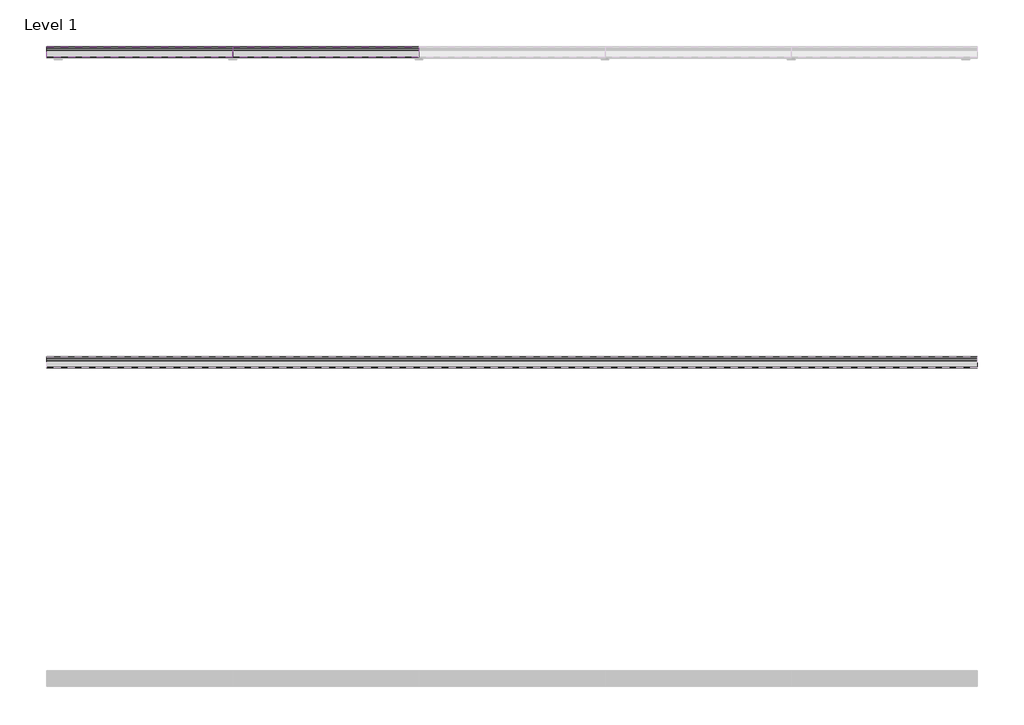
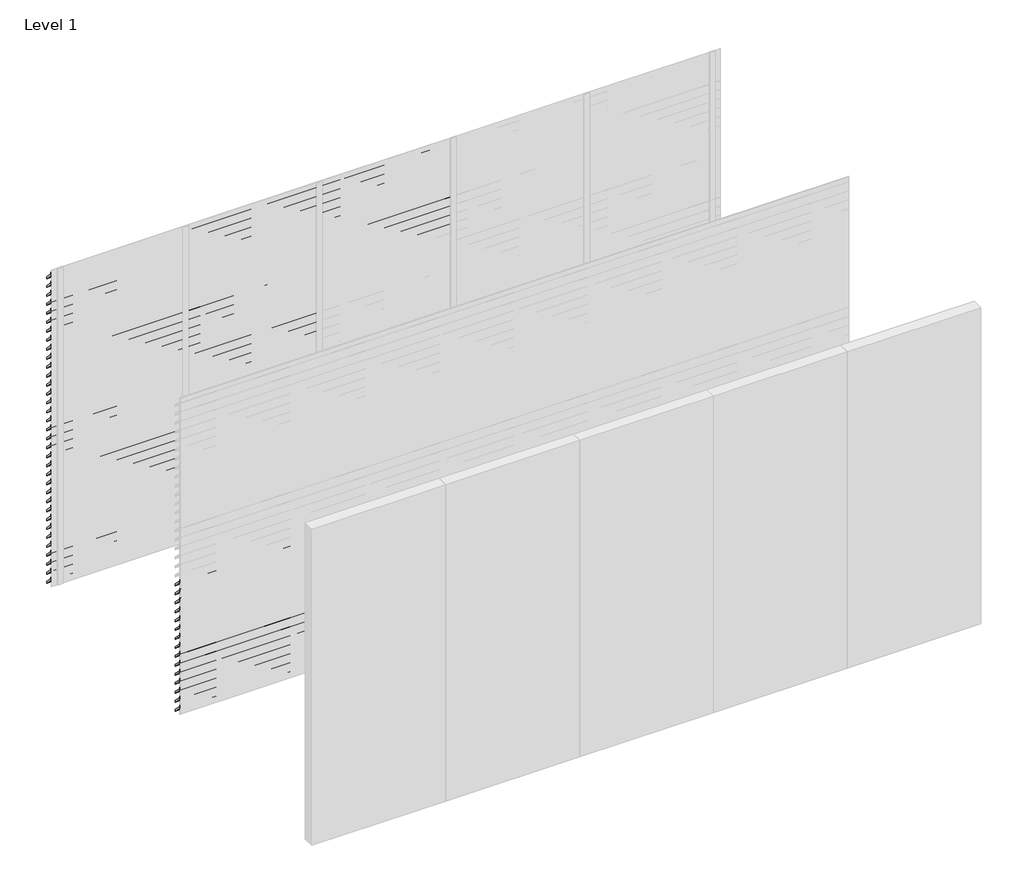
# One storey, part 9 of 10: 95 proxies.
"""IFC4 building model written with IfcOpenShell, lengths in millimetres."""

from ifc_helpers import new_model, si_unit, frame, origin, place, context, project, spatial, polyline, outline, extrude, element, save

model = new_model("IFC4")

# Units and contexts
model_context = context("Model", 3, world=origin())
ifc_project = project(units=[si_unit("LENGTHUNIT", "METRE", prefix="MILLI")], contexts=[model_context])

# Site, building, storey
site = spatial("IfcSite", under=ifc_project)
building = spatial("IfcBuilding", under=site)
storey = spatial("IfcBuildingStorey", under=building, Name="Level 1", Elevation=0.0)

# Proxies
placement = place(None, origin())
element("IfcBuildingElementProxy", 1, Name="Wall Sweeps", at=placement, inside=storey, context=model_context, shape_type="SweptSolid", body=[
    extrude(outline(polyline([(5.0, 2975.0), (5.0, 2962.0), (73.0, 2894.0), (73.0, 2876.0), (3.0, 2946.0), (3.0, 2975.0), (5.0, 2975.0)])), frame((0.0, 0.0, 0.0), z_axis=(1.0, 0.0, 0.0), x_axis=(0.0, 1.0, 0.0)), (0.0, 0.0, 1.0), 1200.0),
])
element("IfcBuildingElementProxy", 2, Name="Wall Sweeps", at=placement, inside=storey, context=model_context, shape_type="SweptSolid", body=[
    extrude(outline(polyline([(5.0, 2890.0), (5.0, 2877.0), (73.0, 2809.0), (73.0, 2791.0), (3.0, 2861.0), (3.0, 2890.0), (5.0, 2890.0)])), frame((0.0, 0.0, 0.0), z_axis=(1.0, 0.0, 0.0), x_axis=(0.0, 1.0, 0.0)), (0.0, 0.0, 1.0), 1200.0),
])
element("IfcBuildingElementProxy", 3, Name="Wall Sweeps", at=placement, inside=storey, context=model_context, shape_type="SweptSolid", body=[
    extrude(outline(polyline([(5.0, 2805.0), (5.0, 2792.0), (73.0, 2724.0), (73.0, 2706.0), (3.0, 2776.0), (3.0, 2805.0), (5.0, 2805.0)])), frame((0.0, 0.0, 0.0), z_axis=(1.0, 0.0, 0.0), x_axis=(0.0, 1.0, 0.0)), (0.0, 0.0, 1.0), 1200.0),
])
element("IfcBuildingElementProxy", 4, Name="Wall Sweeps", at=placement, inside=storey, context=model_context, shape_type="SweptSolid", body=[
    extrude(outline(polyline([(5.0, 2720.0), (5.0, 2707.0), (73.0, 2639.0), (73.0, 2621.0), (3.0, 2691.0), (3.0, 2720.0), (5.0, 2720.0)])), frame((0.0, 0.0, 0.0), z_axis=(1.0, 0.0, 0.0), x_axis=(0.0, 1.0, 0.0)), (0.0, 0.0, 1.0), 1200.0),
])
element("IfcBuildingElementProxy", 5, Name="Wall Sweeps", at=placement, inside=storey, context=model_context, shape_type="SweptSolid", body=[
    extrude(outline(polyline([(5.0, 2635.0), (5.0, 2622.0), (73.0, 2554.0), (73.0, 2536.0), (3.0, 2606.0), (3.0, 2635.0), (5.0, 2635.0)])), frame((0.0, 0.0, 0.0), z_axis=(1.0, 0.0, 0.0), x_axis=(0.0, 1.0, 0.0)), (0.0, 0.0, 1.0), 1200.0),
])
element("IfcBuildingElementProxy", 6, Name="Wall Sweeps", at=placement, inside=storey, context=model_context, shape_type="SweptSolid", body=[
    extrude(outline(polyline([(5.0, 2550.0), (5.0, 2537.0), (73.0, 2469.0), (73.0, 2451.0), (3.0, 2521.0), (3.0, 2550.0), (5.0, 2550.0)])), frame((0.0, 0.0, 0.0), z_axis=(1.0, 0.0, 0.0), x_axis=(0.0, 1.0, 0.0)), (0.0, 0.0, 1.0), 1200.0),
])
element("IfcBuildingElementProxy", 7, Name="Wall Sweeps", at=placement, inside=storey, context=model_context, shape_type="SweptSolid", body=[
    extrude(outline(polyline([(5.0, 2465.0), (5.0, 2452.0), (73.0, 2384.0), (73.0, 2366.0), (3.0, 2436.0), (3.0, 2465.0), (5.0, 2465.0)])), frame((0.0, 0.0, 0.0), z_axis=(1.0, 0.0, 0.0), x_axis=(0.0, 1.0, 0.0)), (0.0, 0.0, 1.0), 1200.0),
])
element("IfcBuildingElementProxy", 8, Name="Wall Sweeps", at=placement, inside=storey, context=model_context, shape_type="SweptSolid", body=[
    extrude(outline(polyline([(5.0, 2380.0), (5.0, 2367.0), (73.0, 2299.0), (73.0, 2281.0), (3.0, 2351.0), (3.0, 2380.0), (5.0, 2380.0)])), frame((0.0, 0.0, 0.0), z_axis=(1.0, 0.0, 0.0), x_axis=(0.0, 1.0, 0.0)), (0.0, 0.0, 1.0), 1200.0),
])
element("IfcBuildingElementProxy", 9, Name="Wall Sweeps", at=placement, inside=storey, context=model_context, shape_type="SweptSolid", body=[
    extrude(outline(polyline([(5.0, 2295.0), (5.0, 2282.0), (73.0, 2214.0), (73.0, 2196.0), (3.0, 2266.0), (3.0, 2295.0), (5.0, 2295.0)])), frame((0.0, 0.0, 0.0), z_axis=(1.0, 0.0, 0.0), x_axis=(0.0, 1.0, 0.0)), (0.0, 0.0, 1.0), 1200.0),
])
element("IfcBuildingElementProxy", 10, Name="Wall Sweeps", at=placement, inside=storey, context=model_context, shape_type="SweptSolid", body=[
    extrude(outline(polyline([(5.0, 2210.0), (5.0, 2197.0), (73.0, 2129.0), (73.0, 2111.0), (3.0, 2181.0), (3.0, 2210.0), (5.0, 2210.0)])), frame((0.0, 0.0, 0.0), z_axis=(1.0, 0.0, 0.0), x_axis=(0.0, 1.0, 0.0)), (0.0, 0.0, 1.0), 1200.0),
])
element("IfcBuildingElementProxy", 11, Name="Wall Sweeps", at=placement, inside=storey, context=model_context, shape_type="SweptSolid", body=[
    extrude(outline(polyline([(5.0, 2125.0), (5.0, 2112.0), (73.0, 2044.0), (73.0, 2026.0), (3.0, 2096.0), (3.0, 2125.0), (5.0, 2125.0)])), frame((0.0, 0.0, 0.0), z_axis=(1.0, 0.0, 0.0), x_axis=(0.0, 1.0, 0.0)), (0.0, 0.0, 1.0), 1200.0),
])
element("IfcBuildingElementProxy", 12, Name="Wall Sweeps", at=placement, inside=storey, context=model_context, shape_type="SweptSolid", body=[
    extrude(outline(polyline([(5.0, 2040.0), (5.0, 2027.0), (73.0, 1959.0), (73.0, 1941.0), (3.0, 2011.0), (3.0, 2040.0), (5.0, 2040.0)])), frame((0.0, 0.0, 0.0), z_axis=(1.0, 0.0, 0.0), x_axis=(0.0, 1.0, 0.0)), (0.0, 0.0, 1.0), 1200.0),
])
element("IfcBuildingElementProxy", 13, Name="Wall Sweeps", at=placement, inside=storey, context=model_context, shape_type="SweptSolid", body=[
    extrude(outline(polyline([(5.0, 1955.0), (5.0, 1942.0), (73.0, 1874.0), (73.0, 1856.0), (3.0, 1926.0), (3.0, 1955.0), (5.0, 1955.0)])), frame((0.0, 0.0, 0.0), z_axis=(1.0, 0.0, 0.0), x_axis=(0.0, 1.0, 0.0)), (0.0, 0.0, 1.0), 1200.0),
])
element("IfcBuildingElementProxy", 14, Name="Wall Sweeps", at=placement, inside=storey, context=model_context, shape_type="SweptSolid", body=[
    extrude(outline(polyline([(5.0, 1870.0), (5.0, 1857.0), (73.0, 1789.0), (73.0, 1771.0), (3.0, 1841.0), (3.0, 1870.0), (5.0, 1870.0)])), frame((0.0, 0.0, 0.0), z_axis=(1.0, 0.0, 0.0), x_axis=(0.0, 1.0, 0.0)), (0.0, 0.0, 1.0), 1200.0),
])
element("IfcBuildingElementProxy", 15, Name="Wall Sweeps", at=placement, inside=storey, context=model_context, shape_type="SweptSolid", body=[
    extrude(outline(polyline([(5.0, 1785.0), (5.0, 1772.0), (73.0, 1704.0), (73.0, 1686.0), (3.0, 1756.0), (3.0, 1785.0), (5.0, 1785.0)])), frame((0.0, 0.0, 0.0), z_axis=(1.0, 0.0, 0.0), x_axis=(0.0, 1.0, 0.0)), (0.0, 0.0, 1.0), 1200.0),
])
element("IfcBuildingElementProxy", 16, Name="Wall Sweeps", at=placement, inside=storey, context=model_context, shape_type="SweptSolid", body=[
    extrude(outline(polyline([(5.0, 1700.0), (5.0, 1687.0), (73.0, 1619.0), (73.0, 1601.0), (3.0, 1671.0), (3.0, 1700.0), (5.0, 1700.0)])), frame((0.0, 0.0, 0.0), z_axis=(1.0, 0.0, 0.0), x_axis=(0.0, 1.0, 0.0)), (0.0, 0.0, 1.0), 1200.0),
])
element("IfcBuildingElementProxy", 17, Name="Wall Sweeps", at=placement, inside=storey, context=model_context, shape_type="SweptSolid", body=[
    extrude(outline(polyline([(5.0, 1615.0), (5.0, 1602.0), (73.0, 1534.0), (73.0, 1516.0), (3.0, 1586.0), (3.0, 1615.0), (5.0, 1615.0)])), frame((0.0, 0.0, 0.0), z_axis=(1.0, 0.0, 0.0), x_axis=(0.0, 1.0, 0.0)), (0.0, 0.0, 1.0), 1200.0),
])
element("IfcBuildingElementProxy", 18, Name="Wall Sweeps", at=placement, inside=storey, context=model_context, shape_type="SweptSolid", body=[
    extrude(outline(polyline([(5.0, 1530.0), (5.0, 1517.0), (73.0, 1449.0), (73.0, 1431.0), (3.0, 1501.0), (3.0, 1530.0), (5.0, 1530.0)])), frame((0.0, 0.0, 0.0), z_axis=(1.0, 0.0, 0.0), x_axis=(0.0, 1.0, 0.0)), (0.0, 0.0, 1.0), 1200.0),
])
element("IfcBuildingElementProxy", 19, Name="Wall Sweeps", at=placement, inside=storey, context=model_context, shape_type="SweptSolid", body=[
    extrude(outline(polyline([(5.0, 1445.0), (5.0, 1432.0), (73.0, 1364.0), (73.0, 1346.0), (3.0, 1416.0), (3.0, 1445.0), (5.0, 1445.0)])), frame((0.0, 0.0, 0.0), z_axis=(1.0, 0.0, 0.0), x_axis=(0.0, 1.0, 0.0)), (0.0, 0.0, 1.0), 1200.0),
])
element("IfcBuildingElementProxy", 20, Name="Wall Sweeps", at=placement, inside=storey, context=model_context, shape_type="SweptSolid", body=[
    extrude(outline(polyline([(5.0, 1360.0), (5.0, 1347.0), (73.0, 1279.0), (73.0, 1261.0), (3.0, 1331.0), (3.0, 1360.0), (5.0, 1360.0)])), frame((0.0, 0.0, 0.0), z_axis=(1.0, 0.0, 0.0), x_axis=(0.0, 1.0, 0.0)), (0.0, 0.0, 1.0), 1200.0),
])
element("IfcBuildingElementProxy", 21, Name="Wall Sweeps", at=placement, inside=storey, context=model_context, shape_type="SweptSolid", body=[
    extrude(outline(polyline([(5.0, 1275.0), (5.0, 1262.0), (73.0, 1194.0), (73.0, 1176.0), (3.0, 1246.0), (3.0, 1275.0), (5.0, 1275.0)])), frame((0.0, 0.0, 0.0), z_axis=(1.0, 0.0, 0.0), x_axis=(0.0, 1.0, 0.0)), (0.0, 0.0, 1.0), 1200.0),
])
element("IfcBuildingElementProxy", 22, Name="Wall Sweeps", at=placement, inside=storey, context=model_context, shape_type="SweptSolid", body=[
    extrude(outline(polyline([(5.0, 1190.0), (5.0, 1177.0), (73.0, 1109.0), (73.0, 1091.0), (3.0, 1161.0), (3.0, 1190.0), (5.0, 1190.0)])), frame((0.0, 0.0, 0.0), z_axis=(1.0, 0.0, 0.0), x_axis=(0.0, 1.0, 0.0)), (0.0, 0.0, 1.0), 1200.0),
])
element("IfcBuildingElementProxy", 23, Name="Wall Sweeps", at=placement, inside=storey, context=model_context, shape_type="SweptSolid", body=[
    extrude(outline(polyline([(5.0, 1105.0), (5.0, 1092.0), (73.0, 1024.0), (73.0, 1006.0), (3.0, 1076.0), (3.0, 1105.0), (5.0, 1105.0)])), frame((0.0, 0.0, 0.0), z_axis=(1.0, 0.0, 0.0), x_axis=(0.0, 1.0, 0.0)), (0.0, 0.0, 1.0), 1200.0),
])
element("IfcBuildingElementProxy", 24, Name="Wall Sweeps", at=placement, inside=storey, context=model_context, shape_type="SweptSolid", body=[
    extrude(outline(polyline([(5.0, 1020.0), (5.0, 1007.0), (73.0, 939.0), (73.0, 921.0), (3.0, 991.0), (3.0, 1020.0), (5.0, 1020.0)])), frame((0.0, 0.0, 0.0), z_axis=(1.0, 0.0, 0.0), x_axis=(0.0, 1.0, 0.0)), (0.0, 0.0, 1.0), 1200.0),
])
element("IfcBuildingElementProxy", 25, Name="Wall Sweeps", at=placement, inside=storey, context=model_context, shape_type="SweptSolid", body=[
    extrude(outline(polyline([(5.0, 935.0), (5.0, 922.0), (73.0, 854.0), (73.0, 836.0), (3.0, 906.0), (3.0, 935.0), (5.0, 935.0)])), frame((0.0, 0.0, 0.0), z_axis=(1.0, 0.0, 0.0), x_axis=(0.0, 1.0, 0.0)), (0.0, 0.0, 1.0), 1200.0),
])
element("IfcBuildingElementProxy", 26, Name="Wall Sweeps", at=placement, inside=storey, context=model_context, shape_type="SweptSolid", body=[
    extrude(outline(polyline([(5.0, 850.0), (5.0, 837.0), (73.0, 769.0), (73.0, 751.0), (3.0, 821.0), (3.0, 850.0), (5.0, 850.0)])), frame((0.0, 0.0, 0.0), z_axis=(1.0, 0.0, 0.0), x_axis=(0.0, 1.0, 0.0)), (0.0, 0.0, 1.0), 1200.0),
])
element("IfcBuildingElementProxy", 27, Name="Wall Sweeps", at=placement, inside=storey, context=model_context, shape_type="SweptSolid", body=[
    extrude(outline(polyline([(5.0, 765.0), (5.0, 752.0), (73.0, 684.0), (73.0, 666.0), (3.0, 736.0), (3.0, 765.0), (5.0, 765.0)])), frame((0.0, 0.0, 0.0), z_axis=(1.0, 0.0, 0.0), x_axis=(0.0, 1.0, 0.0)), (0.0, 0.0, 1.0), 1200.0),
])
element("IfcBuildingElementProxy", 28, Name="Wall Sweeps", at=placement, inside=storey, context=model_context, shape_type="SweptSolid", body=[
    extrude(outline(polyline([(5.0, 680.0), (5.0, 667.0), (73.0, 599.0), (73.0, 581.0), (3.0, 651.0), (3.0, 680.0), (5.0, 680.0)])), frame((0.0, 0.0, 0.0), z_axis=(1.0, 0.0, 0.0), x_axis=(0.0, 1.0, 0.0)), (0.0, 0.0, 1.0), 1200.0),
])
element("IfcBuildingElementProxy", 29, Name="Wall Sweeps", at=placement, inside=storey, context=model_context, shape_type="SweptSolid", body=[
    extrude(outline(polyline([(5.0, 595.0), (5.0, 582.0), (73.0, 514.0), (73.0, 496.0), (3.0, 566.0), (3.0, 595.0), (5.0, 595.0)])), frame((0.0, 0.0, 0.0), z_axis=(1.0, 0.0, 0.0), x_axis=(0.0, 1.0, 0.0)), (0.0, 0.0, 1.0), 1200.0),
])
element("IfcBuildingElementProxy", 30, Name="Wall Sweeps", at=placement, inside=storey, context=model_context, shape_type="SweptSolid", body=[
    extrude(outline(polyline([(5.0, 510.0), (5.0, 497.0), (73.0, 429.0), (73.0, 411.0), (3.0, 481.0), (3.0, 510.0), (5.0, 510.0)])), frame((0.0, 0.0, 0.0), z_axis=(1.0, 0.0, 0.0), x_axis=(0.0, 1.0, 0.0)), (0.0, 0.0, 1.0), 1200.0),
])
element("IfcBuildingElementProxy", 31, Name="Wall Sweeps", at=placement, inside=storey, context=model_context, shape_type="SweptSolid", body=[
    extrude(outline(polyline([(5.0, 425.0), (5.0, 412.0), (73.0, 344.0), (73.0, 326.0), (3.0, 396.0), (3.0, 425.0), (5.0, 425.0)])), frame((0.0, 0.0, 0.0), z_axis=(1.0, 0.0, 0.0), x_axis=(0.0, 1.0, 0.0)), (0.0, 0.0, 1.0), 1200.0),
])
element("IfcBuildingElementProxy", 32, Name="Wall Sweeps", at=placement, inside=storey, context=model_context, shape_type="SweptSolid", body=[
    extrude(outline(polyline([(5.0, 340.0), (5.0, 327.0), (73.0, 259.0), (73.0, 241.0), (3.0, 311.0), (3.0, 340.0), (5.0, 340.0)])), frame((0.0, 0.0, 0.0), z_axis=(1.0, 0.0, 0.0), x_axis=(0.0, 1.0, 0.0)), (0.0, 0.0, 1.0), 1200.0),
])
element("IfcBuildingElementProxy", 33, Name="Wall Sweeps", at=placement, inside=storey, context=model_context, shape_type="SweptSolid", body=[
    extrude(outline(polyline([(5.0, 255.0), (5.0, 242.0), (73.0, 174.0), (73.0, 156.0), (3.0, 226.0), (3.0, 255.0), (5.0, 255.0)])), frame((0.0, 0.0, 0.0), z_axis=(1.0, 0.0, 0.0), x_axis=(0.0, 1.0, 0.0)), (0.0, 0.0, 1.0), 1200.0),
])
element("IfcBuildingElementProxy", 34, Name="Wall Sweeps", at=placement, inside=storey, context=model_context, shape_type="SweptSolid", body=[
    extrude(outline(polyline([(5.0, 170.0), (5.0, 157.0), (73.0, 89.0), (73.0, 71.0), (3.0, 141.0), (3.0, 170.0), (5.0, 170.0)])), frame((0.0, 0.0, 0.0), z_axis=(1.0, 0.0, 0.0), x_axis=(0.0, 1.0, 0.0)), (0.0, 0.0, 1.0), 1200.0),
])
element("IfcBuildingElementProxy", 35, Name="Wall Sweeps", at=placement, inside=storey, context=model_context, shape_type="SweptSolid", body=[
    extrude(outline(polyline([(5.0, 85.0), (5.0, 72.0), (73.0, 4.0), (73.0, -14.0), (3.0, 56.0), (3.0, 85.0), (5.0, 85.0)])), frame((0.0, 0.0, 0.0), z_axis=(1.0, 0.0, 0.0), x_axis=(0.0, 1.0, 0.0)), (0.0, 0.0, 1.0), 1200.0),
])
element("IfcBuildingElementProxy", 36, Name="Wall Sweeps", at=placement, inside=storey, context=model_context, shape_type="SweptSolid", body=[
    extrude(outline(polyline([(5.0, 2975.0), (5.0, 2962.0), (73.0, 2894.0), (73.0, 2876.0), (3.0, 2946.0), (3.0, 2975.0), (5.0, 2975.0)])), frame((1200.0, 0.0, 0.0), z_axis=(1.0, 0.0, 0.0), x_axis=(0.0, 1.0, 0.0)), (0.0, 0.0, 1.0), 1200.0),
])
element("IfcBuildingElementProxy", 37, Name="Wall Sweeps", at=placement, inside=storey, context=model_context, shape_type="SweptSolid", body=[
    extrude(outline(polyline([(5.0, 2890.0), (5.0, 2877.0), (73.0, 2809.0), (73.0, 2791.0), (3.0, 2861.0), (3.0, 2890.0), (5.0, 2890.0)])), frame((1200.0, 0.0, 0.0), z_axis=(1.0, 0.0, 0.0), x_axis=(0.0, 1.0, 0.0)), (0.0, 0.0, 1.0), 1200.0),
])
element("IfcBuildingElementProxy", 38, Name="Wall Sweeps", at=placement, inside=storey, context=model_context, shape_type="SweptSolid", body=[
    extrude(outline(polyline([(5.0, 2805.0), (5.0, 2792.0), (73.0, 2724.0), (73.0, 2706.0), (3.0, 2776.0), (3.0, 2805.0), (5.0, 2805.0)])), frame((1200.0, 0.0, 0.0), z_axis=(1.0, 0.0, 0.0), x_axis=(0.0, 1.0, 0.0)), (0.0, 0.0, 1.0), 1200.0),
])
element("IfcBuildingElementProxy", 39, Name="Wall Sweeps", at=placement, inside=storey, context=model_context, shape_type="SweptSolid", body=[
    extrude(outline(polyline([(5.0, 2720.0), (5.0, 2707.0), (73.0, 2639.0), (73.0, 2621.0), (3.0, 2691.0), (3.0, 2720.0), (5.0, 2720.0)])), frame((1200.0, 0.0, 0.0), z_axis=(1.0, 0.0, 0.0), x_axis=(0.0, 1.0, 0.0)), (0.0, 0.0, 1.0), 1200.0),
])
element("IfcBuildingElementProxy", 40, Name="Wall Sweeps", at=placement, inside=storey, context=model_context, shape_type="SweptSolid", body=[
    extrude(outline(polyline([(5.0, 2635.0), (5.0, 2622.0), (73.0, 2554.0), (73.0, 2536.0), (3.0, 2606.0), (3.0, 2635.0), (5.0, 2635.0)])), frame((1200.0, 0.0, 0.0), z_axis=(1.0, 0.0, 0.0), x_axis=(0.0, 1.0, 0.0)), (0.0, 0.0, 1.0), 1200.0),
])
element("IfcBuildingElementProxy", 41, Name="Wall Sweeps", at=placement, inside=storey, context=model_context, shape_type="SweptSolid", body=[
    extrude(outline(polyline([(5.0, 2550.0), (5.0, 2537.0), (73.0, 2469.0), (73.0, 2451.0), (3.0, 2521.0), (3.0, 2550.0), (5.0, 2550.0)])), frame((1200.0, 0.0, 0.0), z_axis=(1.0, 0.0, 0.0), x_axis=(0.0, 1.0, 0.0)), (0.0, 0.0, 1.0), 1200.0),
])
element("IfcBuildingElementProxy", 42, Name="Wall Sweeps", at=placement, inside=storey, context=model_context, shape_type="SweptSolid", body=[
    extrude(outline(polyline([(5.0, 2465.0), (5.0, 2452.0), (73.0, 2384.0), (73.0, 2366.0), (3.0, 2436.0), (3.0, 2465.0), (5.0, 2465.0)])), frame((1200.0, 0.0, 0.0), z_axis=(1.0, 0.0, 0.0), x_axis=(0.0, 1.0, 0.0)), (0.0, 0.0, 1.0), 1200.0),
])
element("IfcBuildingElementProxy", 43, Name="Wall Sweeps", at=placement, inside=storey, context=model_context, shape_type="SweptSolid", body=[
    extrude(outline(polyline([(5.0, 2380.0), (5.0, 2367.0), (73.0, 2299.0), (73.0, 2281.0), (3.0, 2351.0), (3.0, 2380.0), (5.0, 2380.0)])), frame((1200.0, 0.0, 0.0), z_axis=(1.0, 0.0, 0.0), x_axis=(0.0, 1.0, 0.0)), (0.0, 0.0, 1.0), 1200.0),
])
element("IfcBuildingElementProxy", 44, Name="Wall Sweeps", at=placement, inside=storey, context=model_context, shape_type="SweptSolid", body=[
    extrude(outline(polyline([(5.0, 2295.0), (5.0, 2282.0), (73.0, 2214.0), (73.0, 2196.0), (3.0, 2266.0), (3.0, 2295.0), (5.0, 2295.0)])), frame((1200.0, 0.0, 0.0), z_axis=(1.0, 0.0, 0.0), x_axis=(0.0, 1.0, 0.0)), (0.0, 0.0, 1.0), 1200.0),
])
element("IfcBuildingElementProxy", 45, Name="Wall Sweeps", at=placement, inside=storey, context=model_context, shape_type="SweptSolid", body=[
    extrude(outline(polyline([(5.0, 2210.0), (5.0, 2197.0), (73.0, 2129.0), (73.0, 2111.0), (3.0, 2181.0), (3.0, 2210.0), (5.0, 2210.0)])), frame((1200.0, 0.0, 0.0), z_axis=(1.0, 0.0, 0.0), x_axis=(0.0, 1.0, 0.0)), (0.0, 0.0, 1.0), 1200.0),
])
element("IfcBuildingElementProxy", 46, Name="Wall Sweeps", at=placement, inside=storey, context=model_context, shape_type="SweptSolid", body=[
    extrude(outline(polyline([(5.0, 2125.0), (5.0, 2112.0), (73.0, 2044.0), (73.0, 2026.0), (3.0, 2096.0), (3.0, 2125.0), (5.0, 2125.0)])), frame((1200.0, 0.0, 0.0), z_axis=(1.0, 0.0, 0.0), x_axis=(0.0, 1.0, 0.0)), (0.0, 0.0, 1.0), 1200.0),
])
element("IfcBuildingElementProxy", 47, Name="Wall Sweeps", at=placement, inside=storey, context=model_context, shape_type="SweptSolid", body=[
    extrude(outline(polyline([(5.0, 2040.0), (5.0, 2027.0), (73.0, 1959.0), (73.0, 1941.0), (3.0, 2011.0), (3.0, 2040.0), (5.0, 2040.0)])), frame((1200.0, 0.0, 0.0), z_axis=(1.0, 0.0, 0.0), x_axis=(0.0, 1.0, 0.0)), (0.0, 0.0, 1.0), 1200.0),
])
element("IfcBuildingElementProxy", 48, Name="Wall Sweeps", at=placement, inside=storey, context=model_context, shape_type="SweptSolid", body=[
    extrude(outline(polyline([(5.0, 1955.0), (5.0, 1942.0), (73.0, 1874.0), (73.0, 1856.0), (3.0, 1926.0), (3.0, 1955.0), (5.0, 1955.0)])), frame((1200.0, 0.0, 0.0), z_axis=(1.0, 0.0, 0.0), x_axis=(0.0, 1.0, 0.0)), (0.0, 0.0, 1.0), 1200.0),
])
element("IfcBuildingElementProxy", 49, Name="Wall Sweeps", at=placement, inside=storey, context=model_context, shape_type="SweptSolid", body=[
    extrude(outline(polyline([(5.0, 1870.0), (5.0, 1857.0), (73.0, 1789.0), (73.0, 1771.0), (3.0, 1841.0), (3.0, 1870.0), (5.0, 1870.0)])), frame((1200.0, 0.0, 0.0), z_axis=(1.0, 0.0, 0.0), x_axis=(0.0, 1.0, 0.0)), (0.0, 0.0, 1.0), 1200.0),
])
element("IfcBuildingElementProxy", 50, Name="Wall Sweeps", at=placement, inside=storey, context=model_context, shape_type="SweptSolid", body=[
    extrude(outline(polyline([(5.0, 1785.0), (5.0, 1772.0), (73.0, 1704.0), (73.0, 1686.0), (3.0, 1756.0), (3.0, 1785.0), (5.0, 1785.0)])), frame((1200.0, 0.0, 0.0), z_axis=(1.0, 0.0, 0.0), x_axis=(0.0, 1.0, 0.0)), (0.0, 0.0, 1.0), 1200.0),
])
element("IfcBuildingElementProxy", 51, Name="Wall Sweeps", at=placement, inside=storey, context=model_context, shape_type="SweptSolid", body=[
    extrude(outline(polyline([(5.0, 1700.0), (5.0, 1687.0), (73.0, 1619.0), (73.0, 1601.0), (3.0, 1671.0), (3.0, 1700.0), (5.0, 1700.0)])), frame((1200.0, 0.0, 0.0), z_axis=(1.0, 0.0, 0.0), x_axis=(0.0, 1.0, 0.0)), (0.0, 0.0, 1.0), 1200.0),
])
element("IfcBuildingElementProxy", 52, Name="Wall Sweeps", at=placement, inside=storey, context=model_context, shape_type="SweptSolid", body=[
    extrude(outline(polyline([(5.0, 1615.0), (5.0, 1602.0), (73.0, 1534.0), (73.0, 1516.0), (3.0, 1586.0), (3.0, 1615.0), (5.0, 1615.0)])), frame((1200.0, 0.0, 0.0), z_axis=(1.0, 0.0, 0.0), x_axis=(0.0, 1.0, 0.0)), (0.0, 0.0, 1.0), 1200.0),
])
element("IfcBuildingElementProxy", 53, Name="Wall Sweeps", at=placement, inside=storey, context=model_context, shape_type="SweptSolid", body=[
    extrude(outline(polyline([(5.0, 1530.0), (5.0, 1517.0), (73.0, 1449.0), (73.0, 1431.0), (3.0, 1501.0), (3.0, 1530.0), (5.0, 1530.0)])), frame((1200.0, 0.0, 0.0), z_axis=(1.0, 0.0, 0.0), x_axis=(0.0, 1.0, 0.0)), (0.0, 0.0, 1.0), 1200.0),
])
element("IfcBuildingElementProxy", 54, Name="Wall Sweeps", at=placement, inside=storey, context=model_context, shape_type="SweptSolid", body=[
    extrude(outline(polyline([(5.0, 1445.0), (5.0, 1432.0), (73.0, 1364.0), (73.0, 1346.0), (3.0, 1416.0), (3.0, 1445.0), (5.0, 1445.0)])), frame((1200.0, 0.0, 0.0), z_axis=(1.0, 0.0, 0.0), x_axis=(0.0, 1.0, 0.0)), (0.0, 0.0, 1.0), 1200.0),
])
element("IfcBuildingElementProxy", 55, Name="Wall Sweeps", at=placement, inside=storey, context=model_context, shape_type="SweptSolid", body=[
    extrude(outline(polyline([(5.0, 1360.0), (5.0, 1347.0), (73.0, 1279.0), (73.0, 1261.0), (3.0, 1331.0), (3.0, 1360.0), (5.0, 1360.0)])), frame((1200.0, 0.0, 0.0), z_axis=(1.0, 0.0, 0.0), x_axis=(0.0, 1.0, 0.0)), (0.0, 0.0, 1.0), 1200.0),
])
element("IfcBuildingElementProxy", 56, Name="Wall Sweeps", at=placement, inside=storey, context=model_context, shape_type="SweptSolid", body=[
    extrude(outline(polyline([(5.0, 1275.0), (5.0, 1262.0), (73.0, 1194.0), (73.0, 1176.0), (3.0, 1246.0), (3.0, 1275.0), (5.0, 1275.0)])), frame((1200.0, 0.0, 0.0), z_axis=(1.0, 0.0, 0.0), x_axis=(0.0, 1.0, 0.0)), (0.0, 0.0, 1.0), 1200.0),
])
element("IfcBuildingElementProxy", 57, Name="Wall Sweeps", at=placement, inside=storey, context=model_context, shape_type="SweptSolid", body=[
    extrude(outline(polyline([(5.0, 1190.0), (5.0, 1177.0), (73.0, 1109.0), (73.0, 1091.0), (3.0, 1161.0), (3.0, 1190.0), (5.0, 1190.0)])), frame((1200.0, 0.0, 0.0), z_axis=(1.0, 0.0, 0.0), x_axis=(0.0, 1.0, 0.0)), (0.0, 0.0, 1.0), 1200.0),
])
element("IfcBuildingElementProxy", 58, Name="Wall Sweeps", at=placement, inside=storey, context=model_context, shape_type="SweptSolid", body=[
    extrude(outline(polyline([(5.0, 1105.0), (5.0, 1092.0), (73.0, 1024.0), (73.0, 1006.0), (3.0, 1076.0), (3.0, 1105.0), (5.0, 1105.0)])), frame((1200.0, 0.0, 0.0), z_axis=(1.0, 0.0, 0.0), x_axis=(0.0, 1.0, 0.0)), (0.0, 0.0, 1.0), 1200.0),
])
element("IfcBuildingElementProxy", 59, Name="Wall Sweeps", at=placement, inside=storey, context=model_context, shape_type="SweptSolid", body=[
    extrude(outline(polyline([(5.0, 1020.0), (5.0, 1007.0), (73.0, 939.0), (73.0, 921.0), (3.0, 991.0), (3.0, 1020.0), (5.0, 1020.0)])), frame((1200.0, 0.0, 0.0), z_axis=(1.0, 0.0, 0.0), x_axis=(0.0, 1.0, 0.0)), (0.0, 0.0, 1.0), 1200.0),
])
element("IfcBuildingElementProxy", 60, Name="Wall Sweeps", at=placement, inside=storey, context=model_context, shape_type="SweptSolid", body=[
    extrude(outline(polyline([(5.0, 935.0), (5.0, 922.0), (73.0, 854.0), (73.0, 836.0), (3.0, 906.0), (3.0, 935.0), (5.0, 935.0)])), frame((1200.0, 0.0, 0.0), z_axis=(1.0, 0.0, 0.0), x_axis=(0.0, 1.0, 0.0)), (0.0, 0.0, 1.0), 1200.0),
])
element("IfcBuildingElementProxy", 61, Name="Wall Sweeps", at=placement, inside=storey, context=model_context, shape_type="SweptSolid", body=[
    extrude(outline(polyline([(5.0, 850.0), (5.0, 837.0), (73.0, 769.0), (73.0, 751.0), (3.0, 821.0), (3.0, 850.0), (5.0, 850.0)])), frame((1200.0, 0.0, 0.0), z_axis=(1.0, 0.0, 0.0), x_axis=(0.0, 1.0, 0.0)), (0.0, 0.0, 1.0), 1200.0),
])
element("IfcBuildingElementProxy", 62, Name="Wall Sweeps", at=placement, inside=storey, context=model_context, shape_type="SweptSolid", body=[
    extrude(outline(polyline([(5.0, 765.0), (5.0, 752.0), (73.0, 684.0), (73.0, 666.0), (3.0, 736.0), (3.0, 765.0), (5.0, 765.0)])), frame((1200.0, 0.0, 0.0), z_axis=(1.0, 0.0, 0.0), x_axis=(0.0, 1.0, 0.0)), (0.0, 0.0, 1.0), 1200.0),
])
element("IfcBuildingElementProxy", 63, Name="Wall Sweeps", at=placement, inside=storey, context=model_context, shape_type="SweptSolid", body=[
    extrude(outline(polyline([(5.0, 680.0), (5.0, 667.0), (73.0, 599.0), (73.0, 581.0), (3.0, 651.0), (3.0, 680.0), (5.0, 680.0)])), frame((1200.0, 0.0, 0.0), z_axis=(1.0, 0.0, 0.0), x_axis=(0.0, 1.0, 0.0)), (0.0, 0.0, 1.0), 1200.0),
])
element("IfcBuildingElementProxy", 64, Name="Wall Sweeps", at=placement, inside=storey, context=model_context, shape_type="SweptSolid", body=[
    extrude(outline(polyline([(5.0, 595.0), (5.0, 582.0), (73.0, 514.0), (73.0, 496.0), (3.0, 566.0), (3.0, 595.0), (5.0, 595.0)])), frame((1200.0, 0.0, 0.0), z_axis=(1.0, 0.0, 0.0), x_axis=(0.0, 1.0, 0.0)), (0.0, 0.0, 1.0), 1200.0),
])
element("IfcBuildingElementProxy", 65, Name="Wall Sweeps", at=placement, inside=storey, context=model_context, shape_type="SweptSolid", body=[
    extrude(outline(polyline([(5.0, 510.0), (5.0, 497.0), (73.0, 429.0), (73.0, 411.0), (3.0, 481.0), (3.0, 510.0), (5.0, 510.0)])), frame((1200.0, 0.0, 0.0), z_axis=(1.0, 0.0, 0.0), x_axis=(0.0, 1.0, 0.0)), (0.0, 0.0, 1.0), 1200.0),
])
element("IfcBuildingElementProxy", 66, Name="Wall Sweeps", at=placement, inside=storey, context=model_context, shape_type="SweptSolid", body=[
    extrude(outline(polyline([(5.0, 425.0), (5.0, 412.0), (73.0, 344.0), (73.0, 326.0), (3.0, 396.0), (3.0, 425.0), (5.0, 425.0)])), frame((1200.0, 0.0, 0.0), z_axis=(1.0, 0.0, 0.0), x_axis=(0.0, 1.0, 0.0)), (0.0, 0.0, 1.0), 1200.0),
])
element("IfcBuildingElementProxy", 67, Name="Wall Sweeps", at=placement, inside=storey, context=model_context, shape_type="SweptSolid", body=[
    extrude(outline(polyline([(5.0, 340.0), (5.0, 327.0), (73.0, 259.0), (73.0, 241.0), (3.0, 311.0), (3.0, 340.0), (5.0, 340.0)])), frame((1200.0, 0.0, 0.0), z_axis=(1.0, 0.0, 0.0), x_axis=(0.0, 1.0, 0.0)), (0.0, 0.0, 1.0), 1200.0),
])
element("IfcBuildingElementProxy", 68, Name="Wall Sweeps", at=placement, inside=storey, context=model_context, shape_type="SweptSolid", body=[
    extrude(outline(polyline([(5.0, 255.0), (5.0, 242.0), (73.0, 174.0), (73.0, 156.0), (3.0, 226.0), (3.0, 255.0), (5.0, 255.0)])), frame((1200.0, 0.0, 0.0), z_axis=(1.0, 0.0, 0.0), x_axis=(0.0, 1.0, 0.0)), (0.0, 0.0, 1.0), 1200.0),
])
element("IfcBuildingElementProxy", 69, Name="Wall Sweeps", at=placement, inside=storey, context=model_context, shape_type="SweptSolid", body=[
    extrude(outline(polyline([(5.0, 170.0), (5.0, 157.0), (73.0, 89.0), (73.0, 71.0), (3.0, 141.0), (3.0, 170.0), (5.0, 170.0)])), frame((1200.0, 0.0, 0.0), z_axis=(1.0, 0.0, 0.0), x_axis=(0.0, 1.0, 0.0)), (0.0, 0.0, 1.0), 1200.0),
])
element("IfcBuildingElementProxy", 70, Name="Wall Sweeps", at=placement, inside=storey, context=model_context, shape_type="SweptSolid", body=[
    extrude(outline(polyline([(5.0, 85.0), (5.0, 72.0), (73.0, 4.0), (73.0, -14.0), (3.0, 56.0), (3.0, 85.0), (5.0, 85.0)])), frame((1200.0, 0.0, 0.0), z_axis=(1.0, 0.0, 0.0), x_axis=(0.0, 1.0, 0.0)), (0.0, 0.0, 1.0), 1200.0),
])
element("IfcBuildingElementProxy", 71, Name="Wall Sweeps", at=placement, inside=storey, context=model_context, shape_type="SweptSolid", body=[
    extrude(outline(polyline([(5.0, 2975.0), (5.0, 2962.0), (73.0, 2894.0), (73.0, 2876.0), (3.0, 2946.0), (3.0, 2975.0), (5.0, 2975.0)])), frame((2400.0, 0.0, 0.0), z_axis=(1.0, 0.0, 0.0), x_axis=(0.0, 1.0, 0.0)), (0.0, 0.0, 1.0), 1200.0),
])
element("IfcBuildingElementProxy", 72, Name="Wall Sweeps", at=placement, inside=storey, context=model_context, shape_type="SweptSolid", body=[
    extrude(outline(polyline([(5.0, 2890.0), (5.0, 2877.0), (73.0, 2809.0), (73.0, 2791.0), (3.0, 2861.0), (3.0, 2890.0), (5.0, 2890.0)])), frame((2400.0, 0.0, 0.0), z_axis=(1.0, 0.0, 0.0), x_axis=(0.0, 1.0, 0.0)), (0.0, 0.0, 1.0), 1200.0),
])
element("IfcBuildingElementProxy", 73, Name="Wall Sweeps", at=placement, inside=storey, context=model_context, shape_type="SweptSolid", body=[
    extrude(outline(polyline([(5.0, 2805.0), (5.0, 2792.0), (73.0, 2724.0), (73.0, 2706.0), (3.0, 2776.0), (3.0, 2805.0), (5.0, 2805.0)])), frame((2400.0, 0.0, 0.0), z_axis=(1.0, 0.0, 0.0), x_axis=(0.0, 1.0, 0.0)), (0.0, 0.0, 1.0), 1200.0),
])
element("IfcBuildingElementProxy", 74, Name="Wall Sweeps", at=placement, inside=storey, context=model_context, shape_type="SweptSolid", body=[
    extrude(outline(polyline([(5.0, 2720.0), (5.0, 2707.0), (73.0, 2639.0), (73.0, 2621.0), (3.0, 2691.0), (3.0, 2720.0), (5.0, 2720.0)])), frame((2400.0, 0.0, 0.0), z_axis=(1.0, 0.0, 0.0), x_axis=(0.0, 1.0, 0.0)), (0.0, 0.0, 1.0), 1200.0),
])
element("IfcBuildingElementProxy", 75, Name="Wall Sweeps", at=placement, inside=storey, context=model_context, shape_type="SweptSolid", body=[
    extrude(outline(polyline([(5.0, 2635.0), (5.0, 2622.0), (73.0, 2554.0), (73.0, 2536.0), (3.0, 2606.0), (3.0, 2635.0), (5.0, 2635.0)])), frame((2400.0, 0.0, 0.0), z_axis=(1.0, 0.0, 0.0), x_axis=(0.0, 1.0, 0.0)), (0.0, 0.0, 1.0), 1200.0),
])
element("IfcBuildingElementProxy", 76, Name="Wall Sweeps", at=placement, inside=storey, context=model_context, shape_type="SweptSolid", body=[
    extrude(outline(polyline([(5.0, 2550.0), (5.0, 2537.0), (73.0, 2469.0), (73.0, 2451.0), (3.0, 2521.0), (3.0, 2550.0), (5.0, 2550.0)])), frame((2400.0, 0.0, 0.0), z_axis=(1.0, 0.0, 0.0), x_axis=(0.0, 1.0, 0.0)), (0.0, 0.0, 1.0), 1200.0),
])
element("IfcBuildingElementProxy", 77, Name="Wall Sweeps", at=placement, inside=storey, context=model_context, shape_type="SweptSolid", body=[
    extrude(outline(polyline([(5.0, 2465.0), (5.0, 2452.0), (73.0, 2384.0), (73.0, 2366.0), (3.0, 2436.0), (3.0, 2465.0), (5.0, 2465.0)])), frame((2400.0, 0.0, 0.0), z_axis=(1.0, 0.0, 0.0), x_axis=(0.0, 1.0, 0.0)), (0.0, 0.0, 1.0), 1200.0),
])
element("IfcBuildingElementProxy", 78, Name="Wall Sweeps", at=placement, inside=storey, context=model_context, shape_type="SweptSolid", body=[
    extrude(outline(polyline([(5.0, 2380.0), (5.0, 2367.0), (73.0, 2299.0), (73.0, 2281.0), (3.0, 2351.0), (3.0, 2380.0), (5.0, 2380.0)])), frame((2400.0, 0.0, 0.0), z_axis=(1.0, 0.0, 0.0), x_axis=(0.0, 1.0, 0.0)), (0.0, 0.0, 1.0), 1200.0),
])
element("IfcBuildingElementProxy", 79, Name="Wall Sweeps", at=placement, inside=storey, context=model_context, shape_type="SweptSolid", body=[
    extrude(outline(polyline([(5.0, 2295.0), (5.0, 2282.0), (73.0, 2214.0), (73.0, 2196.0), (3.0, 2266.0), (3.0, 2295.0), (5.0, 2295.0)])), frame((2400.0, 0.0, 0.0), z_axis=(1.0, 0.0, 0.0), x_axis=(0.0, 1.0, 0.0)), (0.0, 0.0, 1.0), 1200.0),
])
element("IfcBuildingElementProxy", 80, Name="Wall Sweeps", at=placement, inside=storey, context=model_context, shape_type="SweptSolid", body=[
    extrude(outline(polyline([(5.0, 2210.0), (5.0, 2197.0), (73.0, 2129.0), (73.0, 2111.0), (3.0, 2181.0), (3.0, 2210.0), (5.0, 2210.0)])), frame((2400.0, 0.0, 0.0), z_axis=(1.0, 0.0, 0.0), x_axis=(0.0, 1.0, 0.0)), (0.0, 0.0, 1.0), 1200.0),
])
element("IfcBuildingElementProxy", 81, Name="Wall Sweeps", at=placement, inside=storey, context=model_context, shape_type="SweptSolid", body=[
    extrude(outline(polyline([(-1995.0, 1275.0), (-1995.0, 1262.0), (-1927.0, 1194.0), (-1927.0, 1176.0), (-1997.0, 1246.0), (-1997.0, 1275.0), (-1995.0, 1275.0)])), frame((0.0, 0.0, 0.0), z_axis=(1.0, 0.0, 0.0), x_axis=(0.0, 1.0, 0.0)), (0.0, 0.0, 1.0), 6000.0),
])
element("IfcBuildingElementProxy", 82, Name="Wall Sweeps", at=placement, inside=storey, context=model_context, shape_type="SweptSolid", body=[
    extrude(outline(polyline([(-1995.0, 1190.0), (-1995.0, 1177.0), (-1927.0, 1109.0), (-1927.0, 1091.0), (-1997.0, 1161.0), (-1997.0, 1190.0), (-1995.0, 1190.0)])), frame((0.0, 0.0, 0.0), z_axis=(1.0, 0.0, 0.0), x_axis=(0.0, 1.0, 0.0)), (0.0, 0.0, 1.0), 6000.0),
])
element("IfcBuildingElementProxy", 83, Name="Wall Sweeps", at=placement, inside=storey, context=model_context, shape_type="SweptSolid", body=[
    extrude(outline(polyline([(-1995.0, 1105.0), (-1995.0, 1092.0), (-1927.0, 1024.0), (-1927.0, 1006.0), (-1997.0, 1076.0), (-1997.0, 1105.0), (-1995.0, 1105.0)])), frame((0.0, 0.0, 0.0), z_axis=(1.0, 0.0, 0.0), x_axis=(0.0, 1.0, 0.0)), (0.0, 0.0, 1.0), 6000.0),
])
element("IfcBuildingElementProxy", 84, Name="Wall Sweeps", at=placement, inside=storey, context=model_context, shape_type="SweptSolid", body=[
    extrude(outline(polyline([(-1995.0, 1020.0), (-1995.0, 1007.0), (-1927.0, 939.0), (-1927.0, 921.0), (-1997.0, 991.0), (-1997.0, 1020.0), (-1995.0, 1020.0)])), frame((0.0, 0.0, 0.0), z_axis=(1.0, 0.0, 0.0), x_axis=(0.0, 1.0, 0.0)), (0.0, 0.0, 1.0), 6000.0),
])
element("IfcBuildingElementProxy", 85, Name="Wall Sweeps", at=placement, inside=storey, context=model_context, shape_type="SweptSolid", body=[
    extrude(outline(polyline([(-1995.0, 935.0), (-1995.0, 922.0), (-1927.0, 854.0), (-1927.0, 836.0), (-1997.0, 906.0), (-1997.0, 935.0), (-1995.0, 935.0)])), frame((0.0, 0.0, 0.0), z_axis=(1.0, 0.0, 0.0), x_axis=(0.0, 1.0, 0.0)), (0.0, 0.0, 1.0), 6000.0),
])
element("IfcBuildingElementProxy", 86, Name="Wall Sweeps", at=placement, inside=storey, context=model_context, shape_type="SweptSolid", body=[
    extrude(outline(polyline([(-1995.0, 850.0), (-1995.0, 837.0), (-1927.0, 769.0), (-1927.0, 751.0), (-1997.0, 821.0), (-1997.0, 850.0), (-1995.0, 850.0)])), frame((0.0, 0.0, 0.0), z_axis=(1.0, 0.0, 0.0), x_axis=(0.0, 1.0, 0.0)), (0.0, 0.0, 1.0), 6000.0),
])
element("IfcBuildingElementProxy", 87, Name="Wall Sweeps", at=placement, inside=storey, context=model_context, shape_type="SweptSolid", body=[
    extrude(outline(polyline([(-1995.0, 765.0), (-1995.0, 752.0), (-1927.0, 684.0), (-1927.0, 666.0), (-1997.0, 736.0), (-1997.0, 765.0), (-1995.0, 765.0)])), frame((0.0, 0.0, 0.0), z_axis=(1.0, 0.0, 0.0), x_axis=(0.0, 1.0, 0.0)), (0.0, 0.0, 1.0), 6000.0),
])
element("IfcBuildingElementProxy", 88, Name="Wall Sweeps", at=placement, inside=storey, context=model_context, shape_type="SweptSolid", body=[
    extrude(outline(polyline([(-1995.0, 680.0), (-1995.0, 667.0), (-1927.0, 599.0), (-1927.0, 581.0), (-1997.0, 651.0), (-1997.0, 680.0), (-1995.0, 680.0)])), frame((0.0, 0.0, 0.0), z_axis=(1.0, 0.0, 0.0), x_axis=(0.0, 1.0, 0.0)), (0.0, 0.0, 1.0), 6000.0),
])
element("IfcBuildingElementProxy", 89, Name="Wall Sweeps", at=placement, inside=storey, context=model_context, shape_type="SweptSolid", body=[
    extrude(outline(polyline([(-1995.0, 595.0), (-1995.0, 582.0), (-1927.0, 514.0), (-1927.0, 496.0), (-1997.0, 566.0), (-1997.0, 595.0), (-1995.0, 595.0)])), frame((0.0, 0.0, 0.0), z_axis=(1.0, 0.0, 0.0), x_axis=(0.0, 1.0, 0.0)), (0.0, 0.0, 1.0), 6000.0),
])
element("IfcBuildingElementProxy", 90, Name="Wall Sweeps", at=placement, inside=storey, context=model_context, shape_type="SweptSolid", body=[
    extrude(outline(polyline([(-1995.0, 510.0), (-1995.0, 497.0), (-1927.0, 429.0), (-1927.0, 411.0), (-1997.0, 481.0), (-1997.0, 510.0), (-1995.0, 510.0)])), frame((0.0, 0.0, 0.0), z_axis=(1.0, 0.0, 0.0), x_axis=(0.0, 1.0, 0.0)), (0.0, 0.0, 1.0), 6000.0),
])
element("IfcBuildingElementProxy", 91, Name="Wall Sweeps", at=placement, inside=storey, context=model_context, shape_type="SweptSolid", body=[
    extrude(outline(polyline([(-1995.0, 425.0), (-1995.0, 412.0), (-1927.0, 344.0), (-1927.0, 326.0), (-1997.0, 396.0), (-1997.0, 425.0), (-1995.0, 425.0)])), frame((0.0, 0.0, 0.0), z_axis=(1.0, 0.0, 0.0), x_axis=(0.0, 1.0, 0.0)), (0.0, 0.0, 1.0), 6000.0),
])
element("IfcBuildingElementProxy", 92, Name="Wall Sweeps", at=placement, inside=storey, context=model_context, shape_type="SweptSolid", body=[
    extrude(outline(polyline([(-1995.0, 340.0), (-1995.0, 327.0), (-1927.0, 259.0), (-1927.0, 241.0), (-1997.0, 311.0), (-1997.0, 340.0), (-1995.0, 340.0)])), frame((0.0, 0.0, 0.0), z_axis=(1.0, 0.0, 0.0), x_axis=(0.0, 1.0, 0.0)), (0.0, 0.0, 1.0), 6000.0),
])
element("IfcBuildingElementProxy", 93, Name="Wall Sweeps", at=placement, inside=storey, context=model_context, shape_type="SweptSolid", body=[
    extrude(outline(polyline([(-1995.0, 255.0), (-1995.0, 242.0), (-1927.0, 174.0), (-1927.0, 156.0), (-1997.0, 226.0), (-1997.0, 255.0), (-1995.0, 255.0)])), frame((0.0, 0.0, 0.0), z_axis=(1.0, 0.0, 0.0), x_axis=(0.0, 1.0, 0.0)), (0.0, 0.0, 1.0), 6000.0),
])
element("IfcBuildingElementProxy", 94, Name="Wall Sweeps", at=placement, inside=storey, context=model_context, shape_type="SweptSolid", body=[
    extrude(outline(polyline([(-1995.0, 170.0), (-1995.0, 157.0), (-1927.0, 89.0), (-1927.0, 71.0), (-1997.0, 141.0), (-1997.0, 170.0), (-1995.0, 170.0)])), frame((0.0, 0.0, 0.0), z_axis=(1.0, 0.0, 0.0), x_axis=(0.0, 1.0, 0.0)), (0.0, 0.0, 1.0), 6000.0),
])
element("IfcBuildingElementProxy", 95, Name="Wall Sweeps", at=placement, inside=storey, context=model_context, shape_type="SweptSolid", body=[
    extrude(outline(polyline([(-1995.0, 85.0), (-1995.0, 72.0), (-1927.0, 4.0), (-1927.0, -14.0), (-1997.0, 56.0), (-1997.0, 85.0), (-1995.0, 85.0)])), frame((0.0, 0.0, 0.0), z_axis=(1.0, 0.0, 0.0), x_axis=(0.0, 1.0, 0.0)), (0.0, 0.0, 1.0), 6000.0),
])

save(model, "model.ifc")
